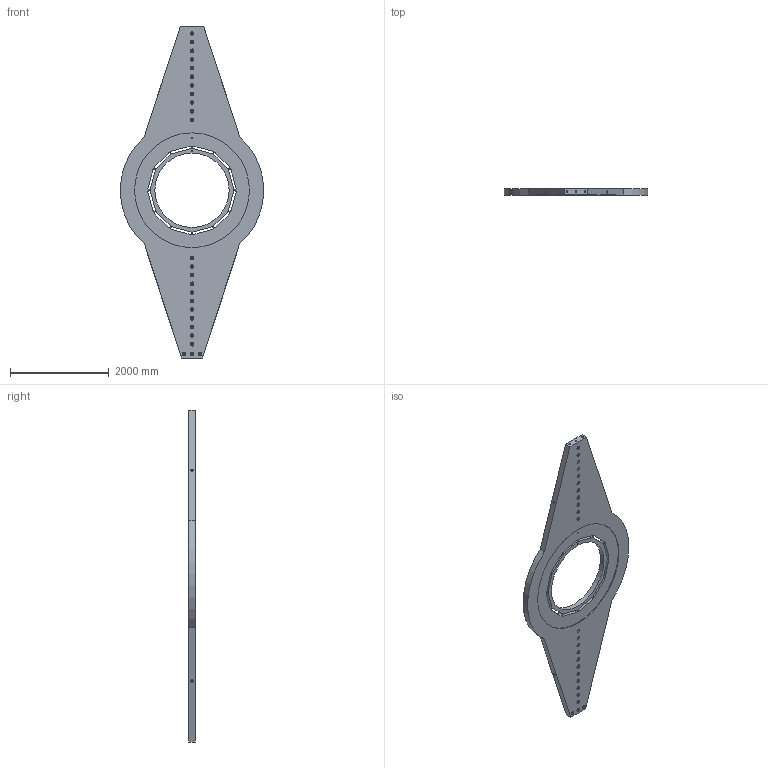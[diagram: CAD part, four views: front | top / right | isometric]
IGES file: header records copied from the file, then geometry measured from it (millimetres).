
Start section:  PTC IGES file: horse_collar.igs
Global section: file name: horse_collar.igs; native system: Pro/ENGINEER by Parametric Technology Corporation; preprocessor: 1999260; author: oshatz; organization: Unknown; date: 000922.101530; units: millimetre
Bounding box: 2900 x 127 x 6714 mm (x, y, z)
Surface area: 22256993 mm2 (no closed solid volume)
Topology: 0 solids, 0 shells, 225 faces, 1140 edges, 1140 vertices
Faces by surface type: revolution 150, bspline 75
